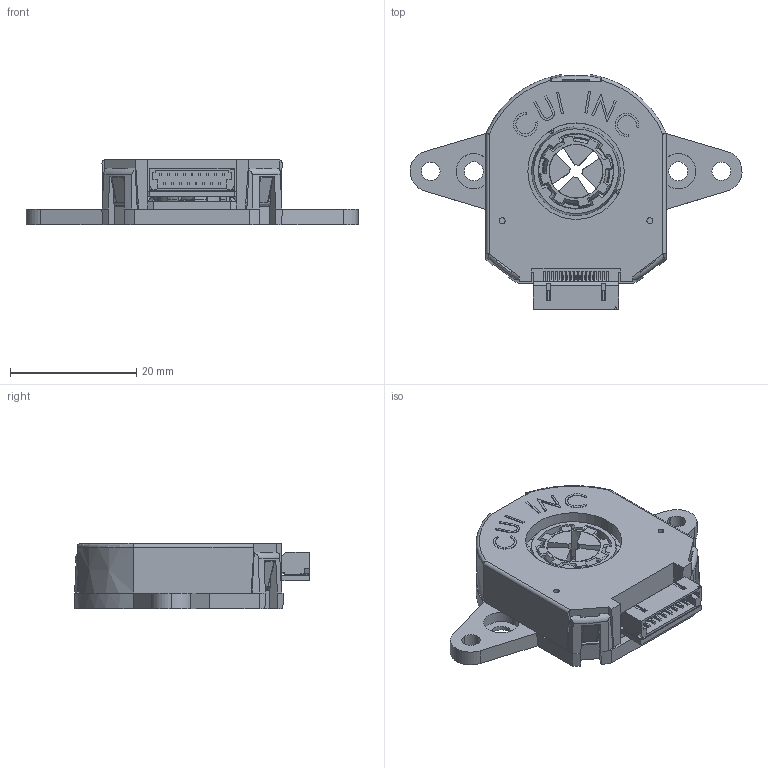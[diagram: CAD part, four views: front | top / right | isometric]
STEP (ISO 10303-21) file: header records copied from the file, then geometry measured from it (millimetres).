
FILE_DESCRIPTION (( 'STEP AP214' ), '1' );
FILE_NAME ('CUI_AMT112S-0048-2000-W.step', '2018-05-08T16:15:53', ( '' ), ( '' ), 'SwSTEP 2.0', 'SolidWorks 2018', '' );
FILE_SCHEMA (( 'AUTOMOTIVE_DESIGN' ));
Length unit declared in the file: millimetre
Products named in the file (12): AMT-Overmold_Hub-REV_A; Receiver-board; AMT-Shaft-Adaptor-REVD_Fixed; AMT11-31 Transmitter Board Assembly; CUI_AMT112S-0048-2000-W; Rotor_16f_5c_Rev_D; Overmold_Rev_A; AMT-X03-Wide-Base REV B; K3D-FI-W17P-HFE-R1 JAE Connector Division Proprietary; AMT_112_113_Transmitter-board new_AMT-103; AMT-203_303-Top-Cover_Rev_D_14CLD; AMT-Sleeve-REV-D_ 2 mm
Assembly tree (11 placements, depth 3):
  CUI_AMT112S-0048-2000-W
    AMT-203_303-Top-Cover_Rev_D_14CLD
    AMT-X03-Wide-Base REV B
    Overmold_Rev_A
      Rotor_16f_5c_Rev_D
      AMT-Overmold_Hub-REV_A
    AMT-Shaft-Adaptor-REVD_Fixed
    Receiver-board
    AMT-Sleeve-REV-D_ 2 mm
    AMT11-31 Transmitter Board Assembly
      AMT_112_113_Transmitter-board new_AMT-103
      K3D-FI-W17P-HFE-R1 JAE Connector Division Proprietary
Bounding box: 52.69 x 37.25 x 10.4 mm (x, y, z)
Volume: 6293.3 mm3; surface area: 12080.6 mm2
Topology: 10 solids, 10 shells, 6263 faces, 16998 edges, 11318 vertices
Faces by surface type: plane 4672, cylinder 1365, cone 160, bspline 47, torus 19
Entity records: 257913 total; most frequent: CARTESIAN_POINT 39551, ORIENTED_EDGE 33988, DIRECTION 31932, EDGE_CURVE 16994, LINE 13396, VECTOR 13396, VERTEX_POINT 11318, AXIS2_PLACEMENT_3D 9268
